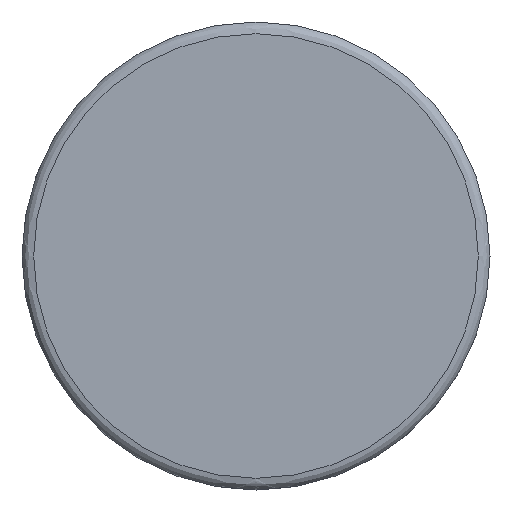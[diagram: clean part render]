
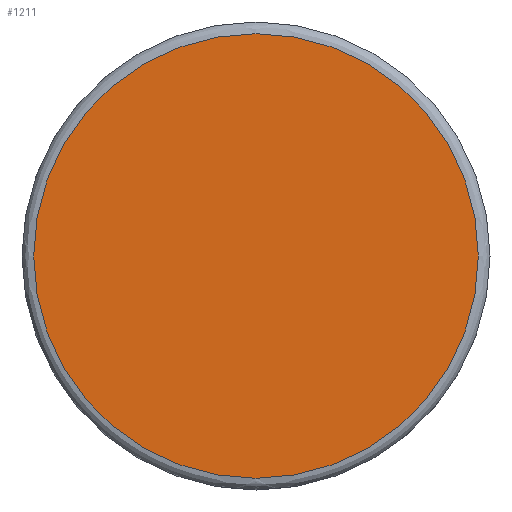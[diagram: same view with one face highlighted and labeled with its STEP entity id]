
A CAD part, front view. The second image highlights one B-rep face of the part: STEP entity #1211.
In plain terms, the highlighted planar face has unit normal (0, -1, 0).
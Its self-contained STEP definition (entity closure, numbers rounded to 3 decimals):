
#1186=CARTESIAN_POINT('',(-28.246,64.054,24.));
#1187=DIRECTION('',(0.0,-1.0,0.0));
#1188=DIRECTION('',(0.0,0.0,-1.0));
#1189=AXIS2_PLACEMENT_3D('',#1186,#1187,#1188);
#1190=PLANE('',#1189);
#1191=CARTESIAN_POINT('',(-4.246,64.054,-19.0));
#1192=VERTEX_POINT('',#1191);
#1193=CARTESIAN_POINT('',(-4.246,64.054,19.0));
#1194=VERTEX_POINT('',#1193);
#1195=CARTESIAN_POINT('',(-4.246,64.054,0.0));
#1196=DIRECTION('',(0.0,-1.0,0.0));
#1197=DIRECTION('',(0.0,0.0,-1.0));
#1198=AXIS2_PLACEMENT_3D('',#1195,#1196,#1197);
#1199=CIRCLE('',#1198,19.0);
#1200=EDGE_CURVE('',#1192,#1194,#1199,.T.);
#1201=ORIENTED_EDGE('',*,*,#1200,.T.);
#1202=CARTESIAN_POINT('',(-4.246,64.054,0.0));
#1203=DIRECTION('',(0.0,-1.0,0.0));
#1204=DIRECTION('',(0.0,0.0,-1.0));
#1205=AXIS2_PLACEMENT_3D('',#1202,#1203,#1204);
#1206=CIRCLE('',#1205,19.0);
#1207=EDGE_CURVE('',#1194,#1192,#1206,.T.);
#1208=ORIENTED_EDGE('',*,*,#1207,.T.);
#1209=EDGE_LOOP('',(#1201,#1208));
#1210=FACE_OUTER_BOUND('',#1209,.T.);
#1211=ADVANCED_FACE('',(#1210),#1190,.T.);
